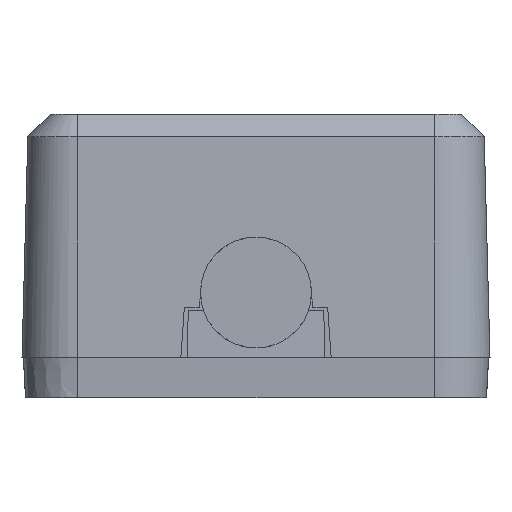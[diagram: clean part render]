
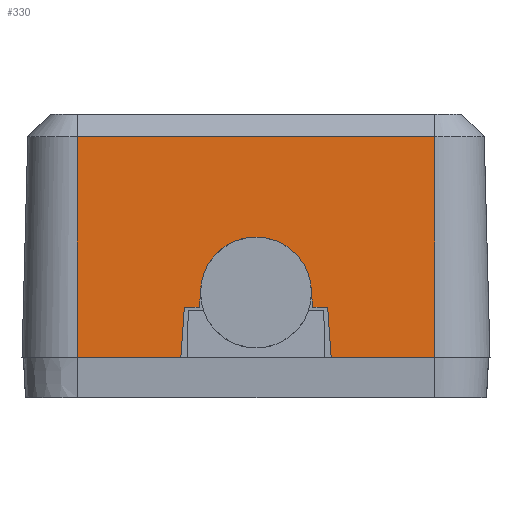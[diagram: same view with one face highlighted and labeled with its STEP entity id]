
A CAD part, left-side view. The second image highlights one B-rep face of the part: STEP entity #330.
In plain terms, the highlighted planar face has unit normal (-1, 0, 0.026).
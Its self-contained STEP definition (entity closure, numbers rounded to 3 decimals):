
#275=ELLIPSE('',#3888,2.051,2.05);
#330=ADVANCED_FACE('',(#688),#531,.F.);
#531=PLANE('',#3889);
#688=FACE_OUTER_BOUND('',#887,.T.);
#887=EDGE_LOOP('',(#1337,#1338,#1339,#1340,#1341,#1342,#1343,#1344,#1345,
#1346,#1347,#1348));
#1337=ORIENTED_EDGE('',*,*,#2681,.T.);
#1338=ORIENTED_EDGE('',*,*,#2682,.T.);
#1339=ORIENTED_EDGE('',*,*,#2683,.T.);
#1340=ORIENTED_EDGE('',*,*,#2575,.F.);
#1341=ORIENTED_EDGE('',*,*,#2684,.F.);
#1342=ORIENTED_EDGE('',*,*,#2685,.T.);
#1343=ORIENTED_EDGE('',*,*,#2686,.F.);
#1344=ORIENTED_EDGE('',*,*,#2687,.F.);
#1345=ORIENTED_EDGE('',*,*,#2688,.T.);
#1346=ORIENTED_EDGE('',*,*,#2689,.T.);
#1347=ORIENTED_EDGE('',*,*,#2690,.T.);
#1348=ORIENTED_EDGE('',*,*,#2571,.F.);
#2197=VERTEX_POINT('',#5255);
#2198=VERTEX_POINT('',#5257);
#2201=VERTEX_POINT('',#5263);
#2202=VERTEX_POINT('',#5265);
#2285=VERTEX_POINT('',#5513);
#2286=VERTEX_POINT('',#5542);
#2287=VERTEX_POINT('',#5545);
#2288=VERTEX_POINT('',#5547);
#2289=VERTEX_POINT('',#5549);
#2290=VERTEX_POINT('',#5551);
#2291=VERTEX_POINT('',#5553);
#2292=VERTEX_POINT('',#5555);
#2571=EDGE_CURVE('',#2197,#2198,#3085,.T.);
#2575=EDGE_CURVE('',#2201,#2202,#3089,.T.);
#2681=EDGE_CURVE('',#2197,#2285,#3182,.T.);
#2682=EDGE_CURVE('',#2285,#2286,#3183,.T.);
#2683=EDGE_CURVE('',#2286,#2202,#3184,.T.);
#2684=EDGE_CURVE('',#2287,#2201,#3185,.T.);
#2685=EDGE_CURVE('',#2287,#2288,#3186,.T.);
#2686=EDGE_CURVE('',#2289,#2288,#3187,.T.);
#2687=EDGE_CURVE('',#2290,#2289,#275,.T.);
#2688=EDGE_CURVE('',#2290,#2291,#3188,.T.);
#2689=EDGE_CURVE('',#2291,#2292,#3189,.T.);
#2690=EDGE_CURVE('',#2292,#2198,#3190,.T.);
#3085=LINE('',#5256,#3503);
#3089=LINE('',#5264,#3507);
#3182=LINE('',#5514,#3600);
#3183=LINE('',#5541,#3601);
#3184=LINE('',#5543,#3602);
#3185=LINE('',#5544,#3603);
#3186=LINE('',#5546,#3604);
#3187=LINE('',#5548,#3605);
#3188=LINE('',#5552,#3606);
#3189=LINE('',#5554,#3607);
#3190=LINE('',#5556,#3608);
#3503=VECTOR('',#4244,1.);
#3507=VECTOR('',#4248,1.);
#3600=VECTOR('',#4381,1.);
#3601=VECTOR('',#4382,1.);
#3602=VECTOR('',#4383,1.);
#3603=VECTOR('',#4384,1.);
#3604=VECTOR('',#4385,1.);
#3605=VECTOR('',#4386,1.);
#3606=VECTOR('',#4389,1.);
#3607=VECTOR('',#4390,1.);
#3608=VECTOR('',#4391,1.);
#3888=AXIS2_PLACEMENT_3D('',#5550,#4387,#4388);
#3889=AXIS2_PLACEMENT_3D('',#5557,#4392,#4393);
#4244=DIRECTION('',(0.,1.,0.));
#4248=DIRECTION('',(0.,1.,0.));
#4381=DIRECTION('',(0.026,0.,1.));
#4382=DIRECTION('',(0.,1.,0.));
#4383=DIRECTION('',(-0.026,0.,-1.));
#4384=DIRECTION('',(-0.026,0.07,-0.997));
#4385=DIRECTION('',(0.,-1.,0.));
#4386=DIRECTION('',(-0.026,0.087,-0.996));
#4387=DIRECTION('',(-1.,0.,0.026));
#4388=DIRECTION('',(0.026,0.,1.));
#4389=DIRECTION('',(-0.026,-0.087,-0.996));
#4390=DIRECTION('',(0.,-1.,0.));
#4391=DIRECTION('',(-0.026,-0.07,-0.997));
#4392=DIRECTION('',(1.,0.,-0.026));
#4393=DIRECTION('',(-0.026,0.,-1.));
#5255=CARTESIAN_POINT('',(-15.044,-196.214,8.035));
#5256=CARTESIAN_POINT('',(-15.044,-181.111,8.035));
#5257=CARTESIAN_POINT('',(-15.044,-192.39,8.035));
#5263=CARTESIAN_POINT('',(-15.044,-186.832,8.035));
#5264=CARTESIAN_POINT('',(-15.044,-181.111,8.035));
#5265=CARTESIAN_POINT('',(-15.044,-183.008,8.035));
#5513=CARTESIAN_POINT('',(-14.83,-196.214,16.199));
#5514=CARTESIAN_POINT('',(-14.992,-196.214,10.035));
#5541=CARTESIAN_POINT('',(-14.83,-183.794,16.199));
#5542=CARTESIAN_POINT('',(-14.83,-183.008,16.199));
#5543=CARTESIAN_POINT('',(-14.992,-183.008,10.035));
#5544=CARTESIAN_POINT('',(-14.994,-186.964,9.926));
#5545=CARTESIAN_POINT('',(-14.996,-186.961,9.885));
#5546=CARTESIAN_POINT('',(-14.996,-183.794,9.885));
#5547=CARTESIAN_POINT('',(-14.996,-187.513,9.885));
#5548=CARTESIAN_POINT('',(-15.,-187.498,9.711));
#5549=CARTESIAN_POINT('',(-14.981,-187.561,10.435));
#5550=CARTESIAN_POINT('',(-14.981,-189.611,10.435));
#5551=CARTESIAN_POINT('',(-14.981,-191.661,10.435));
#5552=CARTESIAN_POINT('',(-14.974,-191.636,10.721));
#5553=CARTESIAN_POINT('',(-14.996,-191.709,9.885));
#5554=CARTESIAN_POINT('',(-14.996,-183.794,9.885));
#5555=CARTESIAN_POINT('',(-14.996,-192.261,9.885));
#5556=CARTESIAN_POINT('',(-14.976,-192.209,10.623));
#5557=CARTESIAN_POINT('',(-14.992,-183.794,10.035));
